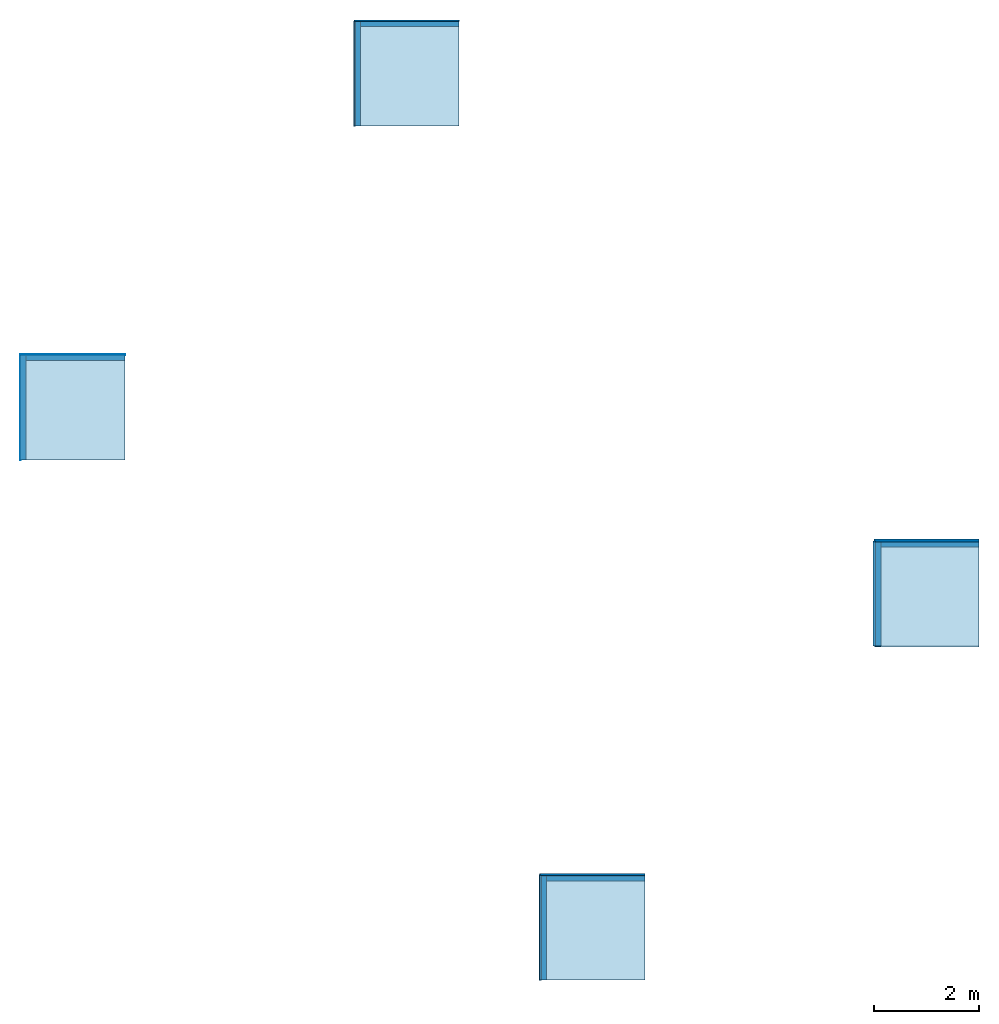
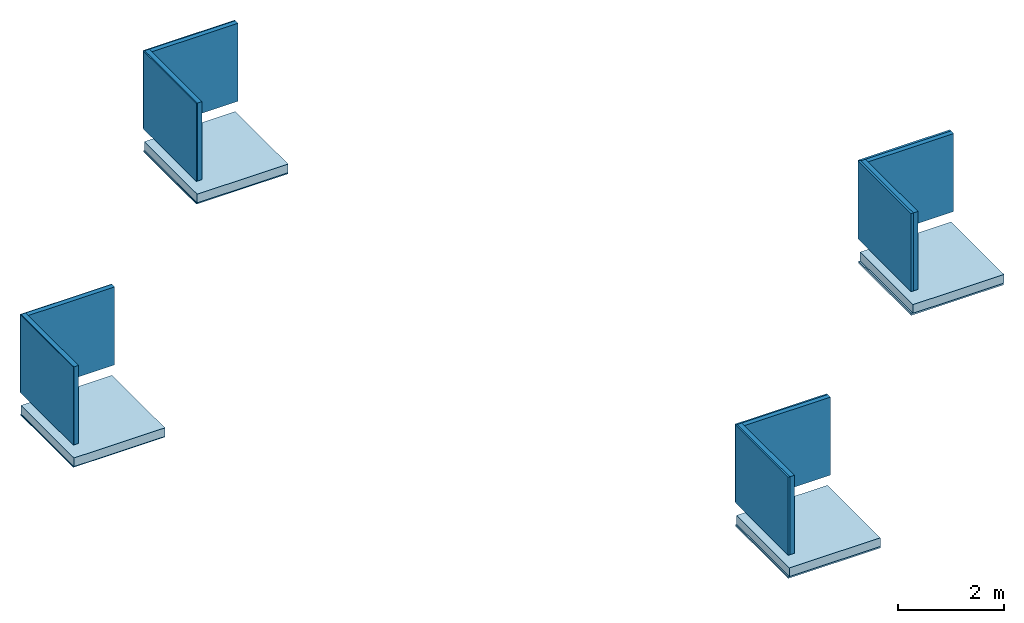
# One storey: 16 walls, 8 slabs.
"""IFC2X3 building model written with IfcOpenShell, lengths in millimetres."""

from ifc_helpers import new_model, entity, si_unit, converted_unit, derived_unit, direction, frame, frame_2d, origin, origin_2d_with_axis, place, context, subcontext, project, spatial, rectangle, extrude, material, layer, layer_set, layer_usage, type_object, element, save


model = new_model("IFC2X3")

# Units and contexts
model_context = context("Model", 3, precision=0.01, world=origin(), true_north=direction((6.12303176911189e-17, 1.0)))
context_of_model = context(None, 3, precision=0.01, world=origin(), true_north=direction((6.12303176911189e-17, 1.0)))
body_context = subcontext(model_context, "Body", "Model", "MODEL_VIEW")
ifc_project = project(units=[si_unit("LENGTHUNIT", "METRE", prefix="MILLI"), si_unit("AREAUNIT", "SQUARE_METRE"), si_unit("VOLUMEUNIT", "CUBIC_METRE"), converted_unit("PLANEANGLEUNIT", "DEGREE", entity("IfcRatioMeasure", 0.0174532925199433), si_unit("PLANEANGLEUNIT", "RADIAN"), dimensions=[0, 0, 0, 0, 0, 0, 0]), si_unit("MASSUNIT", "GRAM", prefix="KILO"), si_unit("TIMEUNIT", "SECOND"), si_unit("FREQUENCYUNIT", "HERTZ"), si_unit("THERMODYNAMICTEMPERATUREUNIT", "DEGREE_CELSIUS"), derived_unit("THERMALTRANSMITTANCEUNIT", [(si_unit("MASSUNIT", "GRAM", prefix="KILO"), 1), (si_unit("THERMODYNAMICTEMPERATUREUNIT", "KELVIN"), -1), (si_unit("TIMEUNIT", "SECOND"), -3)]), derived_unit("VOLUMETRICFLOWRATEUNIT", [(si_unit("LENGTHUNIT", "METRE"), 3), (si_unit("TIMEUNIT", "SECOND"), -1)]), si_unit("ELECTRICCURRENTUNIT", "AMPERE"), si_unit("ELECTRICVOLTAGEUNIT", "VOLT"), si_unit("POWERUNIT", "WATT"), si_unit("FORCEUNIT", "NEWTON", prefix="KILO"), si_unit("ILLUMINANCEUNIT", "LUX"), si_unit("LUMINOUSFLUXUNIT", "LUMEN"), si_unit("LUMINOUSINTENSITYUNIT", "CANDELA"), derived_unit("USERDEFINED", [(si_unit("MASSUNIT", "GRAM", prefix="KILO"), -1), (si_unit("LENGTHUNIT", "METRE"), -2), (si_unit("TIMEUNIT", "SECOND"), 3), (si_unit("LUMINOUSFLUXUNIT", "LUMEN"), 1)]), derived_unit("LINEARVELOCITYUNIT", [(si_unit("LENGTHUNIT", "METRE"), 1), (si_unit("TIMEUNIT", "SECOND"), -1)]), si_unit("PRESSUREUNIT", "PASCAL"), derived_unit("USERDEFINED", [(si_unit("LENGTHUNIT", "METRE"), -2), (si_unit("MASSUNIT", "GRAM", prefix="KILO"), 1), (si_unit("TIMEUNIT", "SECOND"), -2)])], contexts=[model_context, context_of_model])

# Site, building, storey
site_placement = place(None, origin())
site = spatial("IfcSite", under=ifc_project, at=site_placement, Name="Default", CompositionType="ELEMENT")
building_placement = place(site_placement, origin())
building = spatial("IfcBuilding", under=site, at=building_placement, CompositionType="ELEMENT")
storey_placement = place(building_placement, origin())
storey = spatial("IfcBuildingStorey", under=building, at=storey_placement, Name="00 begane grond", CompositionType="ELEMENT", Elevation=-2.77069864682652e-11)

# Slabs
ifc_material_1 = material(Name="Heraklith® | Basis - Houtwollaag - 2000x600mm")
ifc_layer_1 = layer(ifc_material_1, 15.0)
ifc_layer_set_1 = layer_set([ifc_layer_1], Name="Floor:NLRS_23_FL_Heraklith - Basis 15x2000x600mm")
ifc_layer_usage_1 = layer_usage(ifc_layer_set_1, "AXIS3", "POSITIVE", 0.0)
slab_1_placement = place(storey_placement, origin())
element("IfcSlab", 1, at=slab_1_placement, inside=storey, material=ifc_layer_usage_1, Name="Floor:NLRS_23_FL_Heraklith - Basis 15x2000x600mm", ObjectType="Floor:NLRS_23_FL_Heraklith - Basis 15x2000x600mm", PredefinedType="FLOOR", context=body_context, shape_type="SweptSolid", body=[
    extrude(rectangle(XDim=2000.0, YDim=2000.0, at=origin_2d_with_axis()), frame((1000.0, 1000.0, -500.0), z_axis=(0.0, 0.0, -1.0), x_axis=(0.0, 1.0, 0.0)), (0.0, 0.0, 1.0), 15.0),
])
ifc_layer_2 = layer(ifc_material_1, 25.0)
ifc_layer_set_2 = layer_set([ifc_layer_2], Name="Floor:NLRS_23_FL_Heraklith - Basis 25x2000x600mm")
ifc_layer_usage_2 = layer_usage(ifc_layer_set_2, "AXIS3", "POSITIVE", 0.0)
slab_2_placement = place(storey_placement, origin())
element("IfcSlab", 2, at=slab_2_placement, inside=storey, material=ifc_layer_usage_2, Name="Floor:NLRS_23_FL_Heraklith - Basis 25x2000x600mm", ObjectType="Floor:NLRS_23_FL_Heraklith - Basis 25x2000x600mm", PredefinedType="FLOOR", context=body_context, shape_type="SweptSolid", body=[
    extrude(rectangle(XDim=1994.99999999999, YDim=2005.0, at=frame_2d((-5.11590769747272e-13, -1.08002495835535e-12), x_axis=(1.0, 0.0))), frame((7361.4610306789, 7361.46103067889, -500.0), z_axis=(0.0, 0.0, -1.0), x_axis=(0.0, 1.0, 0.0)), (0.0, 0.0, 1.0), 25.0),
])
ifc_layer_3 = layer(ifc_material_1, 35.0)
ifc_layer_set_3 = layer_set([ifc_layer_3], Name="Floor:NLRS_23_FL_Heraklith - Basis 35x2000x600mm")
ifc_layer_usage_3 = layer_usage(ifc_layer_set_3, "AXIS3", "POSITIVE", 0.0)
slab_3_placement = place(storey_placement, origin())
element("IfcSlab", 3, at=slab_3_placement, inside=storey, material=ifc_layer_usage_3, Name="Floor:NLRS_23_FL_Heraklith - Basis 35x2000x600mm", ObjectType="Floor:NLRS_23_FL_Heraklith - Basis 35x2000x600mm", PredefinedType="FLOOR", context=body_context, shape_type="SweptSolid", body=[
    extrude(rectangle(XDim=1989.99999999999, YDim=2010.0, at=frame_2d((-5.11590769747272e-13, 0.0), x_axis=(1.0, 0.0))), frame((10894.4949366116, -8904.49493661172, -500.0), z_axis=(0.0, 0.0, -1.0), x_axis=(0.0, 1.0, 0.0)), (0.0, 0.0, 1.0), 35.0),
])
ifc_layer_4 = layer(ifc_material_1, 50.0)
ifc_layer_set_4 = layer_set([ifc_layer_4], Name="Floor:NLRS_23_FL_Heraklith - Basis 50x2000x600mm")
ifc_layer_usage_4 = layer_usage(ifc_layer_set_4, "AXIS3", "POSITIVE", 0.0)
slab_4_placement = place(storey_placement, origin())
element("IfcSlab", 4, at=slab_4_placement, inside=storey, material=ifc_layer_usage_4, Name="Floor:NLRS_23_FL_Heraklith - Basis 50x2000x600mm", ObjectType="Floor:NLRS_23_FL_Heraklith - Basis 50x2000x600mm", PredefinedType="FLOOR", context=body_context, shape_type="SweptSolid", body=[
    extrude(rectangle(XDim=1982.49999999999, YDim=2017.5, at=frame_2d((-1.70530256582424e-13, -1.08002495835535e-12), x_axis=(1.0, 0.0))), frame((17254.7059672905, -2544.2839059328, -500.0), z_axis=(0.0, 0.0, -1.0), x_axis=(0.0, 1.0, 0.0)), (0.0, 0.0, 1.0), 50.0),
])
ifc_material_2 = material(Name="Concrete, Precast Panels")
ifc_layer_5 = layer(ifc_material_2, 200.0)
ifc_layer_set_5 = layer_set([ifc_layer_5], Name="Floor:Generic 200mm")
ifc_layer_usage_5 = layer_usage(ifc_layer_set_5, "AXIS3", "POSITIVE", 0.0)
slab_5_placement = place(storey_placement, origin())
element("IfcSlab", 5, at=slab_5_placement, inside=storey, material=ifc_layer_usage_5, Name="Floor:Generic 200mm", ObjectType="Floor:Generic 200mm", PredefinedType="FLOOR", context=body_context, shape_type="SweptSolid", body=[
    extrude(rectangle(XDim=1999.99999999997, YDim=1985.0, at=origin_2d_with_axis()), frame((1007.49999999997, 1000.0, -300.0), z_axis=(0.0, 0.0, -1.0), x_axis=(0.0, 1.0, 0.0)), (0.0, 0.0, 1.0), 200.0),
])
ifc_layer_usage_6 = layer_usage(ifc_layer_set_5, "AXIS3", "POSITIVE", 0.0)
slab_6_placement = place(storey_placement, origin())
element("IfcSlab", 6, at=slab_6_placement, inside=storey, material=ifc_layer_usage_6, Name="Floor:Generic 200mm", ObjectType="Floor:Generic 200mm", PredefinedType="FLOOR", context=body_context, shape_type="SweptSolid", body=[
    extrude(rectangle(XDim=1999.99999999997, YDim=1985.0, at=origin_2d_with_axis()), frame((7371.4610306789, 7363.96103067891, -300.0), z_axis=(0.0, 0.0, -1.0), x_axis=(0.0, 1.0, 0.0)), (0.0, 0.0, 1.0), 200.0),
])
ifc_layer_usage_7 = layer_usage(ifc_layer_set_5, "AXIS3", "POSITIVE", 0.0)
slab_7_placement = place(storey_placement, origin())
element("IfcSlab", 7, at=slab_7_placement, inside=storey, material=ifc_layer_usage_7, Name="Floor:Generic 200mm", ObjectType="Floor:Generic 200mm", PredefinedType="FLOOR", context=body_context, shape_type="SweptSolid", body=[
    extrude(rectangle(XDim=1999.99999999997, YDim=1984.99999999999, at=origin_2d_with_axis()), frame((17270.9559672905, -2553.0339059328, -300.0), z_axis=(0.0, 0.0, -1.0), x_axis=(0.0, 1.0, 0.0)), (0.0, 0.0, 1.0), 200.0),
])
ifc_layer_usage_8 = layer_usage(ifc_layer_set_5, "AXIS3", "POSITIVE", 0.0)
slab_8_placement = place(storey_placement, origin())
element("IfcSlab", 8, at=slab_8_placement, inside=storey, material=ifc_layer_usage_8, Name="Floor:Generic 200mm", ObjectType="Floor:Generic 200mm", PredefinedType="FLOOR", context=body_context, shape_type="SweptSolid", body=[
    extrude(rectangle(XDim=1999.99999999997, YDim=1984.99999999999, at=origin_2d_with_axis()), frame((10906.9949366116, -8899.4949366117, -300.0), z_axis=(0.0, 0.0, -1.0), x_axis=(0.0, 1.0, 0.0)), (0.0, 0.0, 1.0), 200.0),
])

# Walls
ifc_layer_6 = layer(ifc_material_1, 15.0)
ifc_layer_set_6 = layer_set([ifc_layer_6], Name="Basic Wall:NLRS_42_WA_Heraklith - Basis 15x2000x600mm")
ifc_layer_usage_9 = layer_usage(ifc_layer_set_6, "AXIS2", "NEGATIVE", 7.5)
wall_type_1 = type_object("IfcWallType", Name="Basic Wall:NLRS_42_WA_Heraklith - Basis 15x2000x600mm", PredefinedType="STANDARD", material=ifc_layer_set_6)
wall_1_placement = place(storey_placement, frame((7.49999999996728, 0.0, 0.0), z_axis=(0.0, 0.0, 1.0), x_axis=(0.0, 1.0, 0.0)))
element("IfcWallStandardCase", 9, at=wall_1_placement, inside=storey, type_object=wall_type_1, material=ifc_layer_usage_9, Name="Basic Wall:NLRS_42_WA_Heraklith - Basis 15x2000x600mm", ObjectType="Basic Wall:NLRS_42_WA_Heraklith - Basis 15x2000x600mm", context=body_context, shape_type="SweptSolid", body=[
    extrude(rectangle(XDim=2000.0, YDim=15.0, at=frame_2d((1000.0, -1.33226762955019e-15), x_axis=(-1.0, 0.0))), origin(), (0.0, 0.0, 1.0), 1800.00000000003),
])
ifc_layer_7 = layer(ifc_material_1, 15.0)
ifc_layer_set_7 = layer_set([ifc_layer_7], Name="Basic Wall:NLRS_41_WA_Heraklith - Basis 15x2000x600mm")
ifc_layer_usage_10 = layer_usage(ifc_layer_set_7, "AXIS2", "NEGATIVE", 7.5)
wall_type_2 = type_object("IfcWallType", Name="Basic Wall:NLRS_41_WA_Heraklith - Basis 15x2000x600mm", PredefinedType="STANDARD", material=ifc_layer_set_7)
wall_2_placement = place(storey_placement, frame((2000.0, 2007.49999999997, 0.0), z_axis=(0.0, 0.0, 1.0), x_axis=(-1.0, 0.0, 0.0)))
element("IfcWallStandardCase", 10, at=wall_2_placement, inside=storey, type_object=wall_type_2, material=ifc_layer_usage_10, Name="Basic Wall:NLRS_41_WA_Heraklith - Basis 15x2000x600mm", ObjectType="Basic Wall:NLRS_41_WA_Heraklith - Basis 15x2000x600mm", context=body_context, shape_type="SweptSolid", body=[
    extrude(rectangle(XDim=2000.0, YDim=14.9999999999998, at=frame_2d((1000.0, 1.68753899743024e-14), x_axis=(-1.0, 0.0))), origin(), (0.0, 0.0, 1.0), 1800.00000000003),
])
ifc_layer_8 = layer(ifc_material_1, 25.0)
ifc_layer_set_8 = layer_set([ifc_layer_8], Name="Basic Wall:NLRS_42_WA_Heraklith - Basis 25x2000x600mm")
ifc_layer_usage_11 = layer_usage(ifc_layer_set_8, "AXIS2", "NEGATIVE", 12.5)
wall_type_3 = type_object("IfcWallType", Name="Basic Wall:NLRS_42_WA_Heraklith - Basis 25x2000x600mm", PredefinedType="STANDARD", material=ifc_layer_set_8)
wall_3_placement = place(storey_placement, frame((6371.4610306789, 6363.96103067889, 0.0), z_axis=(0.0, 0.0, 1.0), x_axis=(0.0, 1.0, 0.0)))
element("IfcWallStandardCase", 11, at=wall_3_placement, inside=storey, type_object=wall_type_3, material=ifc_layer_usage_11, Name="Basic Wall:NLRS_42_WA_Heraklith - Basis 25x2000x600mm", ObjectType="Basic Wall:NLRS_42_WA_Heraklith - Basis 25x2000x600mm", context=body_context, shape_type="SweptSolid", body=[
    extrude(rectangle(XDim=2000.0, YDim=25.0000000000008, at=frame_2d((1000.0, 0.0), x_axis=(-1.0, 0.0))), origin(), (0.0, 0.0, 1.0), 1800.00000000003),
])
ifc_layer_9 = layer(ifc_material_1, 25.0)
ifc_layer_set_9 = layer_set([ifc_layer_9], Name="Basic Wall:NLRS_41_WA_Heraklith - Basis 25x2000x600mm")
ifc_layer_usage_12 = layer_usage(ifc_layer_set_9, "AXIS2", "NEGATIVE", 12.5)
wall_type_4 = type_object("IfcWallType", Name="Basic Wall:NLRS_41_WA_Heraklith - Basis 25x2000x600mm", PredefinedType="STANDARD", material=ifc_layer_set_9)
wall_4_placement = place(storey_placement, frame((8363.9610306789, 8371.46103067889, 0.0), z_axis=(0.0, 0.0, 1.0), x_axis=(-1.0, 0.0, 0.0)))
element("IfcWallStandardCase", 12, at=wall_4_placement, inside=storey, type_object=wall_type_4, material=ifc_layer_usage_12, Name="Basic Wall:NLRS_41_WA_Heraklith - Basis 25x2000x600mm", ObjectType="Basic Wall:NLRS_41_WA_Heraklith - Basis 25x2000x600mm", context=body_context, shape_type="SweptSolid", body=[
    extrude(rectangle(XDim=2000.0, YDim=25.0000000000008, at=frame_2d((1000.0, 1.52766688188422e-13), x_axis=(-1.0, 0.0))), origin(), (0.0, 0.0, 1.0), 1800.00000000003),
])
ifc_layer_10 = layer(ifc_material_1, 35.0)
ifc_layer_set_10 = layer_set([ifc_layer_10], Name="Basic Wall:NLRS_42_WA_Heraklith - Basis 35x2000x600mm")
ifc_layer_usage_13 = layer_usage(ifc_layer_set_10, "AXIS2", "NEGATIVE", 17.5)
wall_type_5 = type_object("IfcWallType", Name="Basic Wall:NLRS_42_WA_Heraklith - Basis 35x2000x600mm", PredefinedType="STANDARD", material=ifc_layer_set_10)
wall_5_placement = place(storey_placement, frame((9906.99493661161, -9899.49493661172, 0.0), z_axis=(0.0, 0.0, 1.0), x_axis=(0.0, 1.0, 0.0)))
element("IfcWallStandardCase", 13, at=wall_5_placement, inside=storey, type_object=wall_type_5, material=ifc_layer_usage_13, Name="Basic Wall:NLRS_42_WA_Heraklith - Basis 35x2000x600mm", ObjectType="Basic Wall:NLRS_42_WA_Heraklith - Basis 35x2000x600mm", context=body_context, shape_type="SweptSolid", body=[
    extrude(rectangle(XDim=2000.0, YDim=35.0000000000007, at=frame_2d((1000.0, -5.40012479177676e-13), x_axis=(-1.0, 0.0))), origin(), (0.0, 0.0, 1.0), 1800.00000000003),
])
ifc_layer_11 = layer(ifc_material_1, 35.0)
ifc_layer_set_11 = layer_set([ifc_layer_11], Name="Basic Wall:NLRS_41_WA_Heraklith - Basis 35x2000x600mm")
ifc_layer_usage_14 = layer_usage(ifc_layer_set_11, "AXIS2", "NEGATIVE", 17.5)
wall_type_6 = type_object("IfcWallType", Name="Basic Wall:NLRS_41_WA_Heraklith - Basis 35x2000x600mm", PredefinedType="STANDARD", material=ifc_layer_set_11)
wall_6_placement = place(storey_placement, frame((11899.4949366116, -7891.99493661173, 0.0), z_axis=(0.0, 0.0, 1.0), x_axis=(-1.0, 0.0, 0.0)))
element("IfcWallStandardCase", 14, at=wall_6_placement, inside=storey, type_object=wall_type_6, material=ifc_layer_usage_14, Name="Basic Wall:NLRS_41_WA_Heraklith - Basis 35x2000x600mm", ObjectType="Basic Wall:NLRS_41_WA_Heraklith - Basis 35x2000x600mm", context=body_context, shape_type="SweptSolid", body=[
    extrude(rectangle(XDim=2000.0, YDim=35.0000000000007, at=frame_2d((1000.0, 1.52766688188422e-13), x_axis=(-1.0, 0.0))), origin(), (0.0, 0.0, 1.0), 1800.00000000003),
])
ifc_layer_12 = layer(ifc_material_1, 50.0)
ifc_layer_set_12 = layer_set([ifc_layer_12], Name="Basic Wall:NLRS_42_WA_Heraklith - Basis 50x2000x600mm")
ifc_layer_usage_15 = layer_usage(ifc_layer_set_12, "AXIS2", "NEGATIVE", 25.0)
wall_type_7 = type_object("IfcWallType", Name="Basic Wall:NLRS_42_WA_Heraklith - Basis 50x2000x600mm", PredefinedType="STANDARD", material=ifc_layer_set_12)
wall_7_placement = place(storey_placement, frame((16270.9559672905, -3535.5339059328, 0.0), z_axis=(0.0, 0.0, 1.0), x_axis=(0.0, 1.0, 0.0)))
element("IfcWallStandardCase", 15, at=wall_7_placement, inside=storey, type_object=wall_type_7, material=ifc_layer_usage_15, Name="Basic Wall:NLRS_42_WA_Heraklith - Basis 50x2000x600mm", ObjectType="Basic Wall:NLRS_42_WA_Heraklith - Basis 50x2000x600mm", context=body_context, shape_type="SweptSolid", body=[
    extrude(rectangle(XDim=2000.0, YDim=50.0000000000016, at=frame_2d((1000.0, -5.41788836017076e-13), x_axis=(-1.0, 0.0))), origin(), (0.0, 0.0, 1.0), 1800.00000000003),
])
ifc_layer_13 = layer(ifc_material_1, 50.0)
ifc_layer_set_13 = layer_set([ifc_layer_13], Name="Basic Wall:NLRS_41_WA_Heraklith - Basis 50x2000x600mm")
ifc_layer_usage_16 = layer_usage(ifc_layer_set_13, "AXIS2", "NEGATIVE", 25.0)
wall_type_8 = type_object("IfcWallType", Name="Basic Wall:NLRS_41_WA_Heraklith - Basis 50x2000x600mm", PredefinedType="STANDARD", material=ifc_layer_set_13)
wall_8_placement = place(storey_placement, frame((18263.4559672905, -1528.0339059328, 0.0), z_axis=(0.0, 0.0, 1.0), x_axis=(-1.0, 0.0, 0.0)))
element("IfcWallStandardCase", 16, at=wall_8_placement, inside=storey, type_object=wall_type_8, material=ifc_layer_usage_16, Name="Basic Wall:NLRS_41_WA_Heraklith - Basis 50x2000x600mm", ObjectType="Basic Wall:NLRS_41_WA_Heraklith - Basis 50x2000x600mm", context=body_context, shape_type="SweptSolid", body=[
    extrude(rectangle(XDim=2000.0, YDim=50.0, at=frame_2d((1000.0, 1.77635683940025e-14), x_axis=(-1.0, 0.0))), origin(), (0.0, 0.0, 1.0), 1800.00000000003),
])
ifc_layer_14 = layer(ifc_material_2, 100.0)
ifc_layer_set_14 = layer_set([ifc_layer_14], Name="Basic Wall:Generic_100mm")
ifc_layer_usage_17 = layer_usage(ifc_layer_set_14, "AXIS2", "NEGATIVE", 50.0)
wall_type_9 = type_object("IfcWallType", Name="Basic Wall:Generic_100mm", PredefinedType="STANDARD", material=ifc_layer_set_14)
wall_9_placement = place(storey_placement, frame((65.0, 0.0, 0.0), z_axis=(0.0, 0.0, 1.0), x_axis=(0.0, 1.0, 0.0)))
element("IfcWallStandardCase", 17, at=wall_9_placement, inside=storey, type_object=wall_type_9, material=ifc_layer_usage_17, Name="Basic Wall:Generic_100mm", ObjectType="Basic Wall:Generic_100mm", context=body_context, shape_type="SweptSolid", body=[
    extrude(rectangle(XDim=2000.0, YDim=100.0, at=frame_2d((1000.0, 0.0), x_axis=(-1.0, 0.0))), origin(), (0.0, 0.0, 1.0), 1800.00000000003),
])
ifc_layer_usage_18 = layer_usage(ifc_layer_set_14, "AXIS2", "POSITIVE", -50.0)
wall_10_placement = place(storey_placement, frame((2000.0, 1950.0, 0.0), z_axis=(0.0, 0.0, 1.0), x_axis=(-1.0, 0.0, 0.0)))
element("IfcWallStandardCase", 18, at=wall_10_placement, inside=storey, type_object=wall_type_9, material=ifc_layer_usage_18, Name="Basic Wall:Generic_100mm", ObjectType="Basic Wall:Generic_100mm", context=body_context, shape_type="SweptSolid", body=[
    extrude(rectangle(XDim=1885.0, YDim=100.0, at=frame_2d((942.5, -2.8421709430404e-14), x_axis=(-1.0, 0.0))), origin(), (0.0, 0.0, 1.0), 1800.00000000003),
])
ifc_layer_usage_19 = layer_usage(ifc_layer_set_14, "AXIS2", "NEGATIVE", 50.0)
wall_11_placement = place(storey_placement, frame((6433.9610306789, 6363.96103067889, 0.0), z_axis=(0.0, 0.0, 1.0), x_axis=(0.0, 1.0, 0.0)))
element("IfcWallStandardCase", 19, at=wall_11_placement, inside=storey, type_object=wall_type_9, material=ifc_layer_usage_19, Name="Basic Wall:Generic_100mm", ObjectType="Basic Wall:Generic_100mm", context=body_context, shape_type="SweptSolid", body=[
    extrude(rectangle(XDim=1994.99999999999, YDim=99.9999999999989, at=frame_2d((997.499999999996, 6.3948846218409e-14), x_axis=(-1.0, 0.0))), origin(), (0.0, 0.0, 1.0), 1800.00000000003),
])
ifc_layer_usage_20 = layer_usage(ifc_layer_set_14, "AXIS2", "POSITIVE", -50.0)
wall_12_placement = place(storey_placement, frame((8363.9610306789, 8308.96103067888, 0.0), z_axis=(0.0, 0.0, 1.0), x_axis=(-1.0, 0.0, 0.0)))
element("IfcWallStandardCase", 20, at=wall_12_placement, inside=storey, type_object=wall_type_9, material=ifc_layer_usage_20, Name="Basic Wall:Generic_100mm", ObjectType="Basic Wall:Generic_100mm", context=body_context, shape_type="SweptSolid", body=[
    extrude(rectangle(XDim=1880.0, YDim=99.9999999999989, at=frame_2d((940.000000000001, -4.9737991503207e-14), x_axis=(-1.0, 0.0))), origin(), (0.0, 0.0, 1.0), 1800.00000000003),
])
ifc_layer_usage_21 = layer_usage(ifc_layer_set_14, "AXIS2", "NEGATIVE", 50.0)
wall_13_placement = place(storey_placement, frame((16345.9559672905, -3535.5339059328, 0.0), z_axis=(0.0, 0.0, 1.0), x_axis=(0.0, 1.0, 0.0)))
element("IfcWallStandardCase", 21, at=wall_13_placement, inside=storey, type_object=wall_type_9, material=ifc_layer_usage_21, Name="Basic Wall:Generic_100mm", ObjectType="Basic Wall:Generic_100mm", context=body_context, shape_type="SweptSolid", body=[
    extrude(rectangle(XDim=1982.49999999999, YDim=99.9999999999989, at=frame_2d((991.249999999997, 8.17124146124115e-14), x_axis=(-1.0, 0.0))), origin(), (0.0, 0.0, 1.0), 1800.00000000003),
])
ifc_layer_usage_22 = layer_usage(ifc_layer_set_14, "AXIS2", "POSITIVE", -50.0)
wall_14_placement = place(storey_placement, frame((18263.4559672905, -1603.03390593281, 0.0), z_axis=(0.0, 0.0, 1.0), x_axis=(-1.0, 0.0, 0.0)))
element("IfcWallStandardCase", 22, at=wall_14_placement, inside=storey, type_object=wall_type_9, material=ifc_layer_usage_22, Name="Basic Wall:Generic_100mm", ObjectType="Basic Wall:Generic_100mm", context=body_context, shape_type="SweptSolid", body=[
    extrude(rectangle(XDim=1867.5, YDim=100.0, at=frame_2d((933.750000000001, 5.6843418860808e-14), x_axis=(-1.0, 0.0))), origin(), (0.0, 0.0, 1.0), 1800.00000000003),
])
ifc_layer_usage_23 = layer_usage(ifc_layer_set_14, "AXIS2", "NEGATIVE", 50.0)
wall_15_placement = place(storey_placement, frame((9974.49493661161, -9899.49493661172, 0.0), z_axis=(0.0, 0.0, 1.0), x_axis=(0.0, 1.0, 0.0)))
element("IfcWallStandardCase", 23, at=wall_15_placement, inside=storey, type_object=wall_type_9, material=ifc_layer_usage_23, Name="Basic Wall:Generic_100mm", ObjectType="Basic Wall:Generic_100mm", context=body_context, shape_type="SweptSolid", body=[
    extrude(rectangle(XDim=1989.99999999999, YDim=99.9999999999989, at=frame_2d((994.999999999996, 8.88178419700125e-14), x_axis=(-1.0, 0.0))), origin(), (0.0, 0.0, 1.0), 1800.00000000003),
])
ifc_layer_usage_24 = layer_usage(ifc_layer_set_14, "AXIS2", "POSITIVE", -50.0)
wall_16_placement = place(storey_placement, frame((11899.4949366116, -7959.49493661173, 0.0), z_axis=(0.0, 0.0, 1.0), x_axis=(-1.0, 0.0, 0.0)))
element("IfcWallStandardCase", 24, at=wall_16_placement, inside=storey, type_object=wall_type_9, material=ifc_layer_usage_24, Name="Basic Wall:Generic_100mm", ObjectType="Basic Wall:Generic_100mm", context=body_context, shape_type="SweptSolid", body=[
    extrude(rectangle(XDim=1875.0, YDim=100.000000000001, at=frame_2d((937.499999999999, -4.2632564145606e-14), x_axis=(-1.0, 0.0))), origin(), (0.0, 0.0, 1.0), 1800.00000000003),
])

save(model, "model.ifc")
